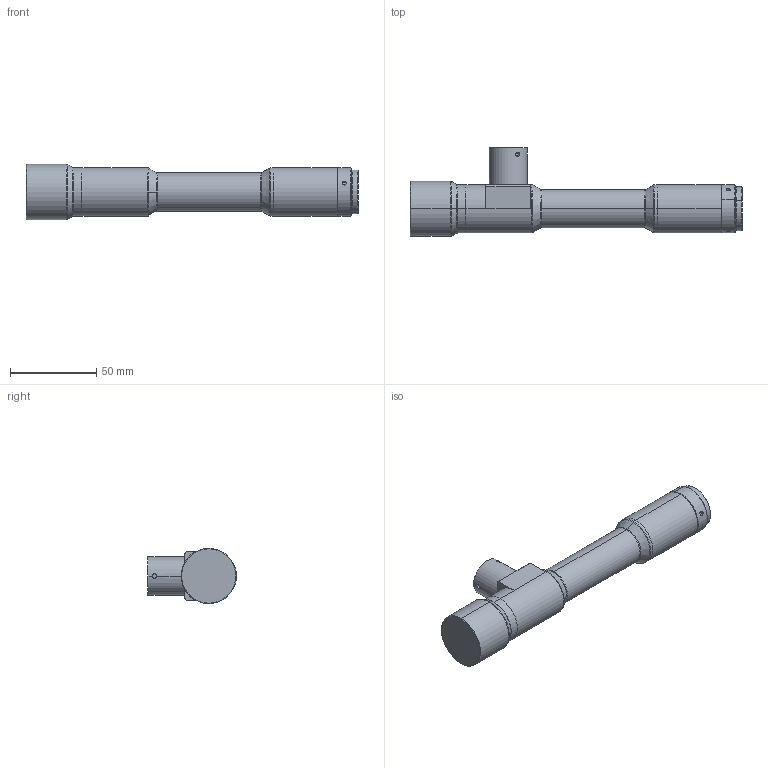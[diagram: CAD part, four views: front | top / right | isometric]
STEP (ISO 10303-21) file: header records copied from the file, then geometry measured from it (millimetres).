
FILE_DESCRIPTION (( 'STEP AP203' ), '1' );
FILE_NAME ('WWK50-108C-111V3.STEP', '2024-01-31T09:10:45', ( '' ), ( '' ), 'SwSTEP 2.0', 'SolidWorks 2017', '' );
FILE_SCHEMA (( 'CONFIG_CONTROL_DESIGN' ));
Length unit declared in the file: millimetre
Products named in the file (1): WWK50-108C-111V3
Bounding box: 192.04 x 51.4 x 32 mm (x, y, z)
Volume: 116793.9 mm3; surface area: 24536 mm2
Topology: 1 solids, 10 shells, 156 faces, 313 edges, 192 vertices
Faces by surface type: cylinder 84, plane 32, cone 28, torus 12
Entity records: 4650 total; most frequent: CARTESIAN_POINT 1246, DIRECTION 753, ORIENTED_EDGE 626, AXIS2_PLACEMENT_3D 319, EDGE_CURVE 313, VERTEX_POINT 192, EDGE_LOOP 181, CIRCLE 162
